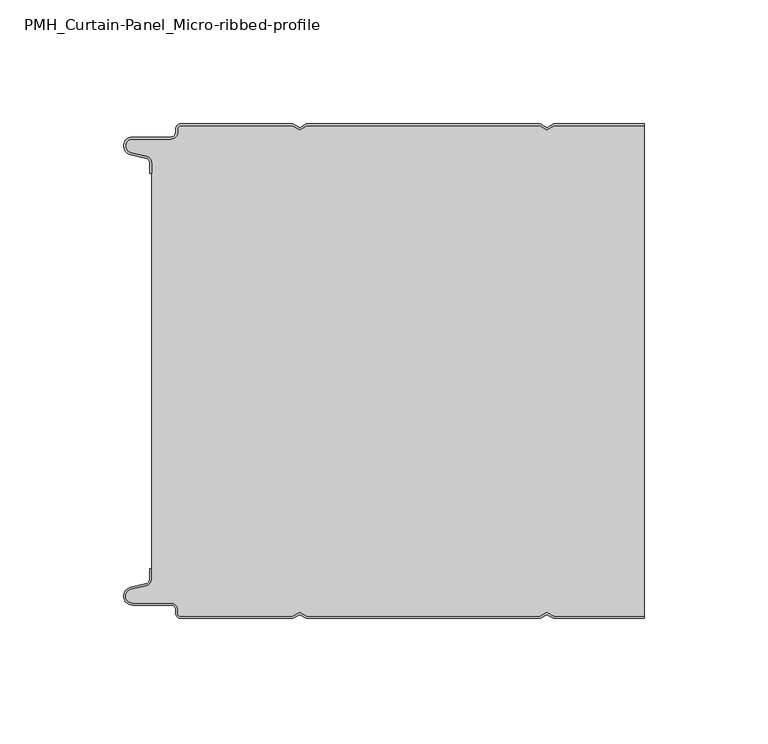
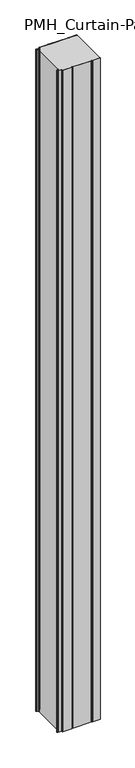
"""IFC4 building model written with IfcOpenShell, lengths in millimetres: plate geometry, PMH_Curtain-Panel_Micro-ribbed-profile : ACH_PMH_Stone-wool-Panel_200M."""

from ifc_helpers import new_model, si_unit, point, frame_2d, origin, origin_with_axes, place, context, project, spatial, polyline, circle_curve, trimmed, segment, composite_curve, outline, extrude, source, transform, mapped, element, save


def pmh_curtain_panel_micro_ribbed_profile_7a617ee0(model_context):
    return source(origin(), model_context, "Body", "SweptSolid", [
        extrude(outline(composite_curve([segment(trimmed(circle_curve(frame_2d((-102.0, -15.878557)), 2.0), [point((-100.0, -15.878557))], [point((-101.5500978, -13.9298169))], True, "CARTESIAN"), True, "CONTINUOUS"), segment(polyline([(-101.5500978, -13.9298169), (-107.7098239, -12.507732)]), True, "CONTINUOUS"), segment(trimmed(circle_curve(frame_2d((-106.9, -9.0)), 3.6), [point((-107.7098239, -12.507732))], [point((-106.9, -5.4))], False, "CARTESIAN"), True, "CONTINUOUS"), segment(polyline([(-106.9, -5.4), (-91.4, -5.4)]), True, "CONTINUOUS"), segment(trimmed(circle_curve(frame_2d((-91.4, -3.4)), 2.0), [point((-91.4, -5.4))], [point((-89.4, -3.4))], True, "CARTESIAN"), True, "CONTINUOUS"), segment(polyline([(-89.4, -3.4), (-89.4, -2.0)]), True, "CONTINUOUS"), segment(trimmed(circle_curve(frame_2d((-87.4, -2.0)), 2.0), [point((-89.4, -2.0))], [point((-87.4, 0.0))], False, "CARTESIAN"), True, "CONTINUOUS"), segment(polyline([(-87.4, 0.0), (-42.0999995, 0.0), (-39.4, -1.5588455), (-36.7000005, 0.0), (57.9000005, 0.0), (60.6, -1.5588455), (63.2999995, 0.0), (100.0, 0.0), (100.0, -0.8), (63.5143588, -0.8), (60.6, -2.482606), (57.6856412, -0.8), (-36.4856412, -0.8), (-39.4, -2.482606), (-42.3143588, -0.8), (-87.4, -0.8)]), True, "CONTINUOUS"), segment(trimmed(circle_curve(frame_2d((-87.4, -2.0)), 1.2), [point((-87.4, -0.8))], [point((-88.6, -2.0))], True, "CARTESIAN"), True, "CONTINUOUS"), segment(polyline([(-88.6, -2.0), (-88.6, -3.4)]), True, "CONTINUOUS"), segment(trimmed(circle_curve(frame_2d((-91.4, -3.4)), 2.8), [point((-88.6, -3.4))], [point((-91.4, -6.2))], False, "CARTESIAN"), True, "CONTINUOUS"), segment(polyline([(-91.4, -6.2), (-106.9, -6.2)]), True, "CONTINUOUS"), segment(trimmed(circle_curve(frame_2d((-106.9, -9.0)), 2.8), [point((-106.9, -6.2))], [point((-107.529863, -11.7282362))], True, "CARTESIAN"), True, "CONTINUOUS"), segment(polyline([(-107.529863, -11.7282362), (-101.370137, -13.150321)]), True, "CONTINUOUS"), segment(trimmed(circle_curve(frame_2d((-102.0, -15.878557)), 2.8), [point((-101.370137, -13.150321))], [point((-99.2, -15.878557))], False, "CARTESIAN"), True, "CONTINUOUS"), segment(polyline([(-99.2, -15.878557), (-99.2, -20.0), (-100.0, -20.0), (-100.0, -15.878557)]), True, "CONTINUOUS")], self_intersect=False)), origin_with_axes(), (0.0, 0.0, 1.0), 3500.0),
        extrude(outline(composite_curve([segment(polyline([(-99.2, -184.1214426), (-99.2, -15.8785573)]), True, "CONTINUOUS"), segment(trimmed(circle_curve(frame_2d((-102.0, -15.8785573)), 2.8), [point((-99.2, -15.8785573))], [point((-101.370137, -13.1503212))], True, "CARTESIAN"), True, "CONTINUOUS"), segment(polyline([(-101.370137, -13.1503212), (-107.5298631, -11.7282362)]), True, "CONTINUOUS"), segment(trimmed(circle_curve(frame_2d((-106.9, -9.0)), 2.8), [point((-107.5298631, -11.7282362))], [point((-106.9, -6.2))], False, "CARTESIAN"), True, "CONTINUOUS"), segment(polyline([(-106.9, -6.2), (-91.4000001, -6.2)]), True, "CONTINUOUS"), segment(trimmed(circle_curve(frame_2d((-91.4000001, -3.4)), 2.8), [point((-91.4000001, -6.2))], [point((-88.6000001, -3.4))], True, "CARTESIAN"), True, "CONTINUOUS"), segment(polyline([(-88.6000001, -3.4), (-88.6000001, -2.0)]), True, "CONTINUOUS"), segment(trimmed(circle_curve(frame_2d((-87.4000001, -2.0)), 1.2), [point((-88.6000001, -2.0))], [point((-87.4000001, -0.8))], False, "CARTESIAN"), True, "CONTINUOUS"), segment(polyline([(-87.4000001, -0.8), (-42.3143589, -0.8), (-39.4000001, -2.482606), (-36.4856412, -0.8), (57.6856411, -0.8), (60.5999999, -2.482606), (63.5143588, -0.8), (100.0, -0.8), (100.0, -199.2), (63.5143588, -199.2), (60.5999999, -197.517394), (57.6856411, -199.2), (-36.4856412, -199.2), (-39.4000001, -197.517394), (-42.3143589, -199.2), (-87.4000001, -199.2)]), True, "CONTINUOUS"), segment(trimmed(circle_curve(frame_2d((-87.4000001, -198.0)), 1.2), [point((-87.4000001, -199.2))], [point((-88.6000001, -198.0))], False, "CARTESIAN"), True, "CONTINUOUS"), segment(polyline([(-88.6000001, -198.0), (-88.6000001, -196.6)]), True, "CONTINUOUS"), segment(trimmed(circle_curve(frame_2d((-91.4000001, -196.6)), 2.8), [point((-88.6000001, -196.6))], [point((-91.4000001, -193.8))], True, "CARTESIAN"), True, "CONTINUOUS"), segment(polyline([(-91.4000001, -193.8), (-106.9, -193.8)]), True, "CONTINUOUS"), segment(trimmed(circle_curve(frame_2d((-106.9, -191.0)), 2.8), [point((-106.9, -193.8))], [point((-107.5298631, -188.2717638))], False, "CARTESIAN"), True, "CONTINUOUS"), segment(polyline([(-107.5298631, -188.2717638), (-101.370137, -186.8496788)]), True, "CONTINUOUS"), segment(trimmed(circle_curve(frame_2d((-102.0, -184.1214426)), 2.8), [point((-101.370137, -186.8496788))], [point((-99.2, -184.1214426))], True, "CARTESIAN"), True, "CONTINUOUS")], self_intersect=False)), origin_with_axes(), (0.0, 0.0, 1.0), 3500.0),
        extrude(outline(composite_curve([segment(polyline([(-100.0, -184.121443), (-100.0, -180.0), (-99.2, -180.0), (-99.2, -184.121443)]), True, "CONTINUOUS"), segment(trimmed(circle_curve(frame_2d((-102.0, -184.121443)), 2.8), [point((-99.2, -184.121443))], [point((-101.370137, -186.8496792))], False, "CARTESIAN"), True, "CONTINUOUS"), segment(polyline([(-101.370137, -186.8496792), (-107.529863, -188.271764)]), True, "CONTINUOUS"), segment(trimmed(circle_curve(frame_2d((-106.9, -191.0)), 2.8), [point((-107.529863, -188.271764))], [point((-106.9, -193.8))], True, "CARTESIAN"), True, "CONTINUOUS"), segment(polyline([(-106.9, -193.8), (-91.4, -193.8)]), True, "CONTINUOUS"), segment(trimmed(circle_curve(frame_2d((-91.4, -196.6)), 2.8), [point((-91.4, -193.8))], [point((-88.6, -196.6))], False, "CARTESIAN"), True, "CONTINUOUS"), segment(polyline([(-88.6, -196.6), (-88.6, -198.0)]), True, "CONTINUOUS"), segment(trimmed(circle_curve(frame_2d((-87.4, -198.0)), 1.2), [point((-88.6, -198.0))], [point((-87.4, -199.2))], True, "CARTESIAN"), True, "CONTINUOUS"), segment(polyline([(-87.4, -199.2), (-42.3143588, -199.2), (-39.4, -197.517394), (-36.4856412, -199.2), (57.6856412, -199.2), (60.6, -197.517394), (63.5143588, -199.2), (100.0, -199.2), (100.0, -200.0), (63.2999995, -200.0), (60.6, -198.4411545), (57.9000005, -200.0), (-36.7000005, -200.0), (-39.4, -198.4411545), (-42.0999995, -200.0), (-87.4, -200.0)]), True, "CONTINUOUS"), segment(trimmed(circle_curve(frame_2d((-87.4, -198.0)), 2.0), [point((-87.4, -200.0))], [point((-89.4, -198.0))], False, "CARTESIAN"), True, "CONTINUOUS"), segment(polyline([(-89.4, -198.0), (-89.4, -196.6)]), True, "CONTINUOUS"), segment(trimmed(circle_curve(frame_2d((-91.4, -196.6)), 2.0), [point((-89.4, -196.6))], [point((-91.4, -194.6))], True, "CARTESIAN"), True, "CONTINUOUS"), segment(polyline([(-91.4, -194.6), (-106.9, -194.6)]), True, "CONTINUOUS"), segment(trimmed(circle_curve(frame_2d((-106.9, -191.0)), 3.6), [point((-106.9, -194.6))], [point((-107.7098239, -187.4922678))], False, "CARTESIAN"), True, "CONTINUOUS"), segment(polyline([(-107.7098239, -187.4922678), (-101.5500979, -186.070183)]), True, "CONTINUOUS"), segment(trimmed(circle_curve(frame_2d((-102.0, -184.121443)), 2.0), [point((-101.5500979, -186.070183))], [point((-100.0, -184.121443))], True, "CARTESIAN"), True, "CONTINUOUS")], self_intersect=False)), origin_with_axes(), (0.0, 0.0, 1.0), 3500.0),
    ])


if __name__ == "__main__":
    model = new_model("IFC4")
    model_context = context("Model", 3, world=origin())
    ifc_project = project(units=[si_unit("LENGTHUNIT", "METRE", prefix="MILLI")], contexts=[model_context])
    site = spatial("IfcSite", under=ifc_project)
    building = spatial("IfcBuilding", under=site)
    placement = place(None, origin())
    pmh_curtain_panel_micro_ribbed_profile_shape = pmh_curtain_panel_micro_ribbed_profile_7a617ee0(model_context)
    element("IfcPlate", 1, ObjectType="PMH_Curtain-Panel_Micro-ribbed-profile : ACH_PMH_Stone-wool-Panel_200M", at=placement, inside=building, context=model_context, shape_type="MappedRepresentation", body=[
        mapped(pmh_curtain_panel_micro_ribbed_profile_shape, transform((0.0, 0.0, 0.0), x_axis=(1.0, 0.0, 0.0), y_axis=(0.0, 1.0, 0.0), z_axis=(0.0, 0.0, 1.0))),
    ])
    save(model, "model.ifc")
